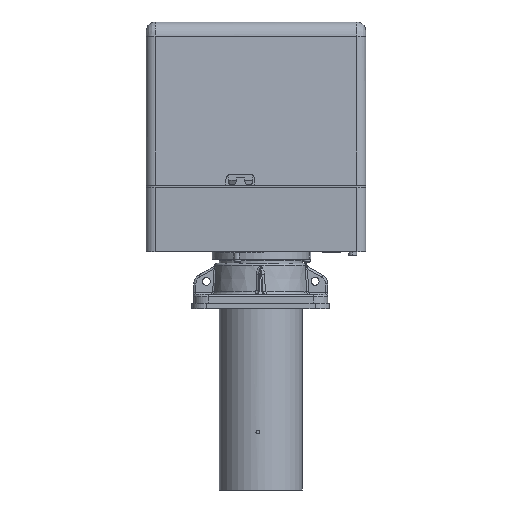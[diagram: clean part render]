
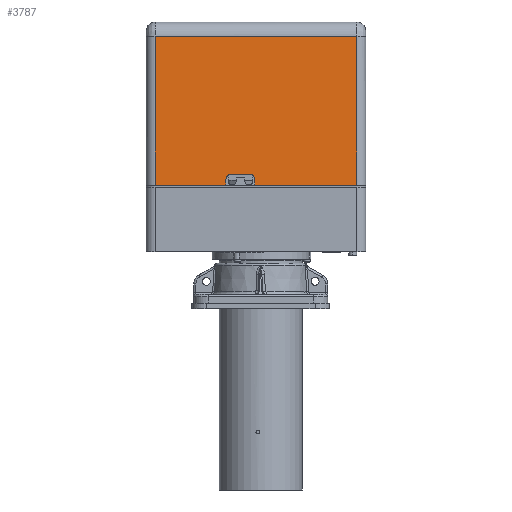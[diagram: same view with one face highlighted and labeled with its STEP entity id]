
A CAD part, front view. The second image highlights one B-rep face of the part: STEP entity #3787.
In plain terms, the highlighted planar face has unit normal (0, -0.999, 0.035) as drawn and (0.035, -0.999, 0) by its records, which use the part's own axes.
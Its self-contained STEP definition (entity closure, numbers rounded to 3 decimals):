
#2195 = DIRECTION ( 'NONE',  ( 0.999, 0.035, 0. ) ) ;
#2754 = ORIENTED_EDGE ( 'NONE', *, *, #54959, .F. ) ;
#3787 = ADVANCED_FACE ( 'NONE', ( #46713 ), #20661, .T. ) ;
#3934 = CARTESIAN_POINT ( 'NONE',  ( 205.515, 7.177, 290.5 ) ) ;
#4541 = CARTESIAN_POINT ( 'NONE',  ( 0., 0., 0. ) ) ;
#5131 = CARTESIAN_POINT ( 'NONE',  ( 0., 0., 12.5 ) ) ;
#12756 = CARTESIAN_POINT ( 'NONE',  ( 8., 0.279, 153. ) ) ;
#13047 = CARTESIAN_POINT ( 'NONE',  ( 15., 0.524, 160. ) ) ;
#13780 = CARTESIAN_POINT ( 'NONE',  ( 15., 0.524, 155.899 ) ) ;
#15932 =( BOUNDED_CURVE ( )  B_SPLINE_CURVE ( 3, ( #13047, #13780, #17014, #12756 ),
 .UNSPECIFIED., .F., .F. ) 
 B_SPLINE_CURVE_WITH_KNOTS ( ( 4, 4 ),
 ( 3.142, 4.712 ),
 .UNSPECIFIED. ) 
 CURVE ( )  GEOMETRIC_REPRESENTATION_ITEM ( )  RATIONAL_B_SPLINE_CURVE ( ( 1., 0.805, 0.805, 1. ) ) 
 REPRESENTATION_ITEM ( '' )  );
#17014 = CARTESIAN_POINT ( 'NONE',  ( 12.101, 0.423, 153. ) ) ;
#20661 = PLANE ( 'NONE',  #81880 ) ;
#21558 = CARTESIAN_POINT ( 'NONE',  ( 0., 0., 12.5 ) ) ;
#24663 = DIRECTION ( 'NONE',  ( 0., 0., -1. ) ) ;
#26982 =( BOUNDED_CURVE ( )  B_SPLINE_CURVE ( 3, ( #69948, #67010, #58390, #56222 ),
 .UNSPECIFIED., .F., .F. ) 
 B_SPLINE_CURVE_WITH_KNOTS ( ( 4, 4 ),
 ( 1.571, 3.142 ),
 .UNSPECIFIED. ) 
 CURVE ( )  GEOMETRIC_REPRESENTATION_ITEM ( )  RATIONAL_B_SPLINE_CURVE ( ( 1., 0.805, 0.805, 1. ) ) 
 REPRESENTATION_ITEM ( '' )  );
#27301 = CARTESIAN_POINT ( 'NONE',  ( 15., 0.524, 160. ) ) ;
#28494 = ORIENTED_EDGE ( 'NONE', *, *, #54986, .F. ) ;
#28899 = DIRECTION ( 'NONE',  ( 0.999, 0.035, 0. ) ) ;
#28962 = LINE ( 'NONE', #66356, #88673 ) ;
#30746 = VECTOR ( 'NONE', #24663, 1000. ) ;
#36396 = ORIENTED_EDGE ( 'NONE', *, *, #38245, .T. ) ;
#37019 = VERTEX_POINT ( 'NONE', #78589 ) ;
#38245 = EDGE_CURVE ( 'NONE', #66222, #45296, #95586, .T. ) ;
#38705 = EDGE_CURVE ( 'NONE', #37019, #41782, #26982, .T. ) ;
#39541 = EDGE_CURVE ( 'NONE', #41782, #54930, #95380, .T. ) ;
#39847 = EDGE_CURVE ( 'NONE', #54930, #89581, #15932, .T. ) ;
#40890 = EDGE_CURVE ( 'NONE', #89581, #100809, #41486, .T. ) ;
#41039 = EDGE_CURVE ( 'NONE', #100809, #66222, #75608, .T. ) ;
#41129 = CARTESIAN_POINT ( 'NONE',  ( 0., 0., 0. ) ) ;
#41486 = LINE ( 'NONE', #48661, #101234 ) ;
#41766 = DIRECTION ( 'NONE',  ( 0., 0., -1. ) ) ;
#41782 = VERTEX_POINT ( 'NONE', #49890 ) ;
#42260 = CARTESIAN_POINT ( 'NONE',  ( 0., 0., 0. ) ) ;
#44741 = VECTOR ( 'NONE', #97835, 1000. ) ;
#45296 = VERTEX_POINT ( 'NONE', #50459 ) ;
#46687 = VERTEX_POINT ( 'NONE', #87570 ) ;
#46713 = FACE_OUTER_BOUND ( 'NONE', #49410, .T. ) ;
#48431 = CARTESIAN_POINT ( 'NONE',  ( 0., 0., 193. ) ) ;
#48537 = DIRECTION ( 'NONE',  ( -0.999, -0.035, 0. ) ) ;
#48661 = CARTESIAN_POINT ( 'NONE',  ( 0., 0., 153. ) ) ;
#48796 = LINE ( 'NONE', #48431, #90341 ) ;
#49410 = EDGE_LOOP ( 'NONE', ( #60251, #80810, #36396, #2754, #61684, #28494, #78658, #78567, #84641, #83523 ) ) ;
#49890 = CARTESIAN_POINT ( 'NONE',  ( 15., 0.524, 186. ) ) ;
#50459 = CARTESIAN_POINT ( 'NONE',  ( 205.515, 7.177, 12.5 ) ) ;
#52157 = EDGE_CURVE ( 'NONE', #94853, #37019, #48796, .T. ) ;
#54930 = VERTEX_POINT ( 'NONE', #27301 ) ;
#54959 = EDGE_CURVE ( 'NONE', #91717, #45296, #28962, .T. ) ;
#54973 = EDGE_CURVE ( 'NONE', #46687, #91717, #86227, .T. ) ;
#54986 = EDGE_CURVE ( 'NONE', #94853, #46687, #65401, .T. ) ;
#56222 = CARTESIAN_POINT ( 'NONE',  ( 15., 0.524, 186. ) ) ;
#57161 = CARTESIAN_POINT ( 'NONE',  ( 15., 0.524, 0. ) ) ;
#58390 = CARTESIAN_POINT ( 'NONE',  ( 15., 0.524, 190.101 ) ) ;
#58871 = CARTESIAN_POINT ( 'NONE',  ( 0., 0., 290.5 ) ) ;
#60251 = ORIENTED_EDGE ( 'NONE', *, *, #40890, .T. ) ;
#61684 = ORIENTED_EDGE ( 'NONE', *, *, #54973, .F. ) ;
#62966 = VECTOR ( 'NONE', #82430, 1000. ) ;
#65401 = LINE ( 'NONE', #4541, #62966 ) ;
#66222 = VERTEX_POINT ( 'NONE', #21558 ) ;
#66356 = CARTESIAN_POINT ( 'NONE',  ( 205.515, 7.177, 0. ) ) ;
#67010 = CARTESIAN_POINT ( 'NONE',  ( 12.101, 0.423, 193. ) ) ;
#69948 = CARTESIAN_POINT ( 'NONE',  ( 8., 0.279, 193. ) ) ;
#70666 = VECTOR ( 'NONE', #41766, 1000. ) ;
#71343 = DIRECTION ( 'NONE',  ( 0.035, -0.999, 0. ) ) ;
#75608 = LINE ( 'NONE', #41129, #70666 ) ;
#78567 = ORIENTED_EDGE ( 'NONE', *, *, #38705, .T. ) ;
#78589 = CARTESIAN_POINT ( 'NONE',  ( 8., 0.279, 193. ) ) ;
#78658 = ORIENTED_EDGE ( 'NONE', *, *, #52157, .T. ) ;
#80810 = ORIENTED_EDGE ( 'NONE', *, *, #41039, .T. ) ;
#81880 = AXIS2_PLACEMENT_3D ( 'NONE', #42260, #71343, #28899 ) ;
#82085 = DIRECTION ( 'NONE',  ( 0., 0., -1. ) ) ;
#82430 = DIRECTION ( 'NONE',  ( 0., 0., 1. ) ) ;
#83100 = CARTESIAN_POINT ( 'NONE',  ( 0., 0., 153. ) ) ;
#83523 = ORIENTED_EDGE ( 'NONE', *, *, #39847, .T. ) ;
#84641 = ORIENTED_EDGE ( 'NONE', *, *, #39541, .T. ) ;
#84890 = CARTESIAN_POINT ( 'NONE',  ( 0., 0., 193. ) ) ;
#86227 = LINE ( 'NONE', #58871, #44741 ) ;
#87570 = CARTESIAN_POINT ( 'NONE',  ( 0., 0., 290.5 ) ) ;
#88456 = CARTESIAN_POINT ( 'NONE',  ( 8., 0.279, 153. ) ) ;
#88673 = VECTOR ( 'NONE', #82085, 1000. ) ;
#89581 = VERTEX_POINT ( 'NONE', #88456 ) ;
#90341 = VECTOR ( 'NONE', #2195, 1000. ) ;
#91717 = VERTEX_POINT ( 'NONE', #3934 ) ;
#93093 = VECTOR ( 'NONE', #100288, 1000. ) ;
#94853 = VERTEX_POINT ( 'NONE', #84890 ) ;
#95380 = LINE ( 'NONE', #57161, #30746 ) ;
#95586 = LINE ( 'NONE', #5131, #93093 ) ;
#97835 = DIRECTION ( 'NONE',  ( 0.999, 0.035, 0. ) ) ;
#100288 = DIRECTION ( 'NONE',  ( 0.999, 0.035, 0. ) ) ;
#100809 = VERTEX_POINT ( 'NONE', #83100 ) ;
#101234 = VECTOR ( 'NONE', #48537, 1000. ) ;
